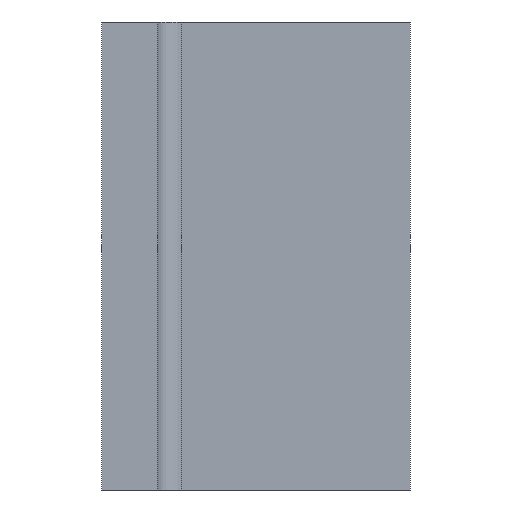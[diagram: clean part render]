
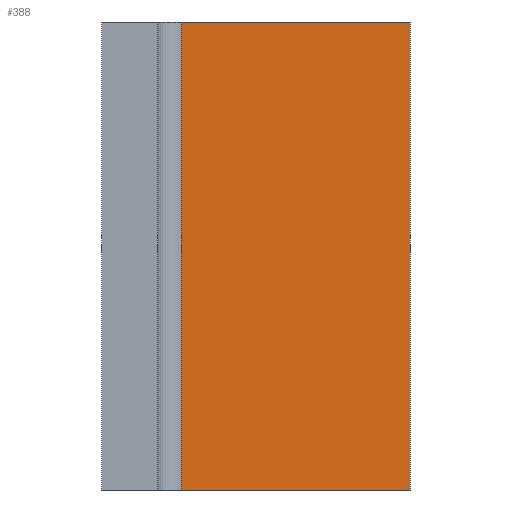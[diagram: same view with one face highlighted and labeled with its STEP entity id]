
A CAD part, left-side view. The second image highlights one B-rep face of the part: STEP entity #388.
In plain terms, the highlighted planar face has unit normal (-1, 0, 0).
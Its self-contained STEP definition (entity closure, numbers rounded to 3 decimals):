
#15 = ORIENTED_EDGE ( 'NONE', *, *, #1065, .F. ) ;
#50 = EDGE_CURVE ( 'NONE', #196, #100, #682, .T. ) ;
#75 = ORIENTED_EDGE ( 'NONE', *, *, #50, .F. ) ;
#100 = VERTEX_POINT ( 'NONE', #1025 ) ;
#119 = EDGE_CURVE ( 'NONE', #312, #100, #1150, .T. ) ;
#142 = ORIENTED_EDGE ( 'NONE', *, *, #119, .T. ) ;
#193 = ORIENTED_EDGE ( 'NONE', *, *, #1985, .T. ) ;
#196 = VERTEX_POINT ( 'NONE', #1638 ) ;
#312 = VERTEX_POINT ( 'NONE', #788 ) ;
#325 = VERTEX_POINT ( 'NONE', #841 ) ;
#388 = ADVANCED_FACE ( 'NONE', ( #1060 ), #1061, .F. ) ;
#682 = LINE ( 'NONE', #683, #687 ) ;
#683 = CARTESIAN_POINT ( 'NONE',  ( 0., 0., 50. ) ) ;
#687 = VECTOR ( 'NONE', #688, 1000. ) ;
#688 = DIRECTION ( 'NONE',  ( 0., 0., -1. ) ) ;
#788 = CARTESIAN_POINT ( 'NONE',  ( 0., 24.501, 0. ) ) ;
#841 = CARTESIAN_POINT ( 'NONE',  ( 0., 24.501, 50. ) ) ;
#1025 = CARTESIAN_POINT ( 'NONE',  ( 0., 0., 0. ) ) ;
#1060 = FACE_OUTER_BOUND ( 'NONE', #1626, .T. ) ;
#1061 = PLANE ( 'NONE',  #1062 ) ;
#1062 = AXIS2_PLACEMENT_3D ( 'NONE', #1063, #1064, #1066 ) ;
#1063 = CARTESIAN_POINT ( 'NONE',  ( 0., 0., 50. ) ) ;
#1064 = DIRECTION ( 'NONE',  ( 1., 0., 0. ) ) ;
#1065 = EDGE_CURVE ( 'NONE', #325, #196, #1557, .T. ) ;
#1066 = DIRECTION ( 'NONE',  ( 0., 0., -1. ) ) ;
#1150 = LINE ( 'NONE', #1151, #1152 ) ;
#1151 = CARTESIAN_POINT ( 'NONE',  ( 0., 0., 0. ) ) ;
#1152 = VECTOR ( 'NONE', #1161, 1000. ) ;
#1161 = DIRECTION ( 'NONE',  ( 0., -1., 0. ) ) ;
#1557 = LINE ( 'NONE', #1558, #1559 ) ;
#1558 = CARTESIAN_POINT ( 'NONE',  ( 0., 0., 50. ) ) ;
#1559 = VECTOR ( 'NONE', #1560, 1000. ) ;
#1560 = DIRECTION ( 'NONE',  ( 0., -1., 0. ) ) ;
#1626 = EDGE_LOOP ( 'NONE', ( #142, #75, #15, #193 ) ) ;
#1638 = CARTESIAN_POINT ( 'NONE',  ( 0., 0., 50. ) ) ;
#1673 = LINE ( 'NONE', #1674, #1675 ) ;
#1674 = CARTESIAN_POINT ( 'NONE',  ( 0., 24.501, 50. ) ) ;
#1675 = VECTOR ( 'NONE', #1676, 1000. ) ;
#1676 = DIRECTION ( 'NONE',  ( 0., 0., -1. ) ) ;
#1985 = EDGE_CURVE ( 'NONE', #325, #312, #1673, .T. ) ;
